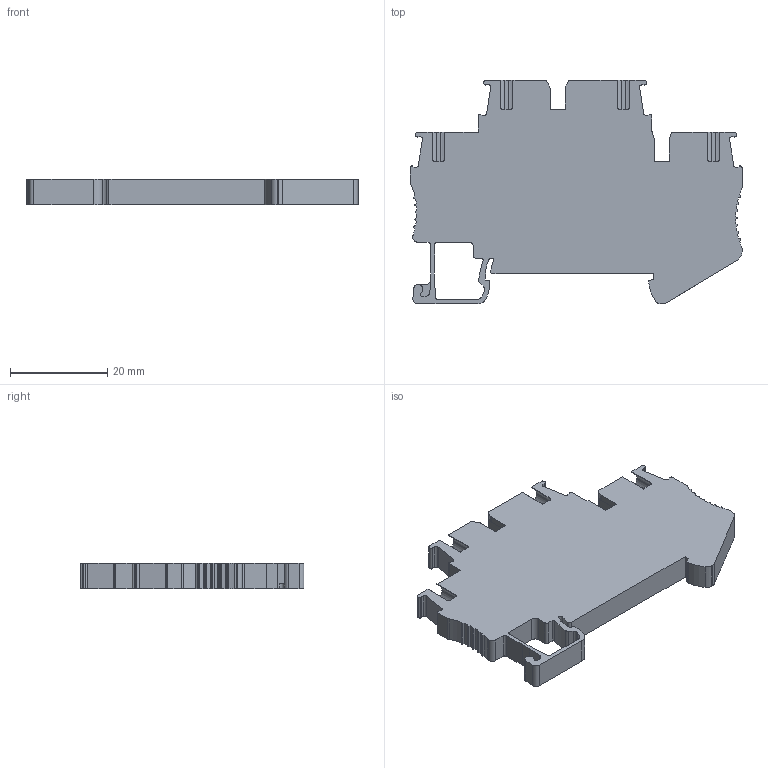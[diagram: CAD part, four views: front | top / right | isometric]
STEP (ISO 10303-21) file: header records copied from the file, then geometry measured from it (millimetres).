
FILE_DESCRIPTION(/* description */ (''),/* implementation_level */ '2;1');
FILE_NAME(/* name */ 'UPT-2.5-2 ASSY.stp',/* time_stamp */ '2024-04-26T14:18:09+08:00',/* author */ (''),/* organization */ (''),/* preprocessor_version */ 'ST-DEVELOPER v16.7',/* originating_system */ 'SIEMENS PLM Software NX 12.0',/* authorisation */ '');
FILE_SCHEMA (('AUTOMOTIVE_DESIGN { 1 0 10303 214 3 1 1 1 }'));
Length unit declared in the file: millimetre
Products named in the file (1): Admi0EB4BAB8ixg5
Bounding box: 68.4 x 46.1 x 5.2 mm (x, y, z)
Volume: 10494.2 mm3; surface area: 7962.2 mm2
Topology: 1 solids, 1 shells, 792 faces, 2238 edges, 1454 vertices
Faces by surface type: plane 483, cylinder 257, cone 20, bspline 16, torus 16
Entity records: 26955 total; most frequent: CARTESIAN_POINT 6253, ORIENTED_EDGE 4460, DIRECTION 4196, EDGE_CURVE 2230, LINE 1580, VECTOR 1580, VERTEX_POINT 1454, AXIS2_PLACEMENT_3D 1308
